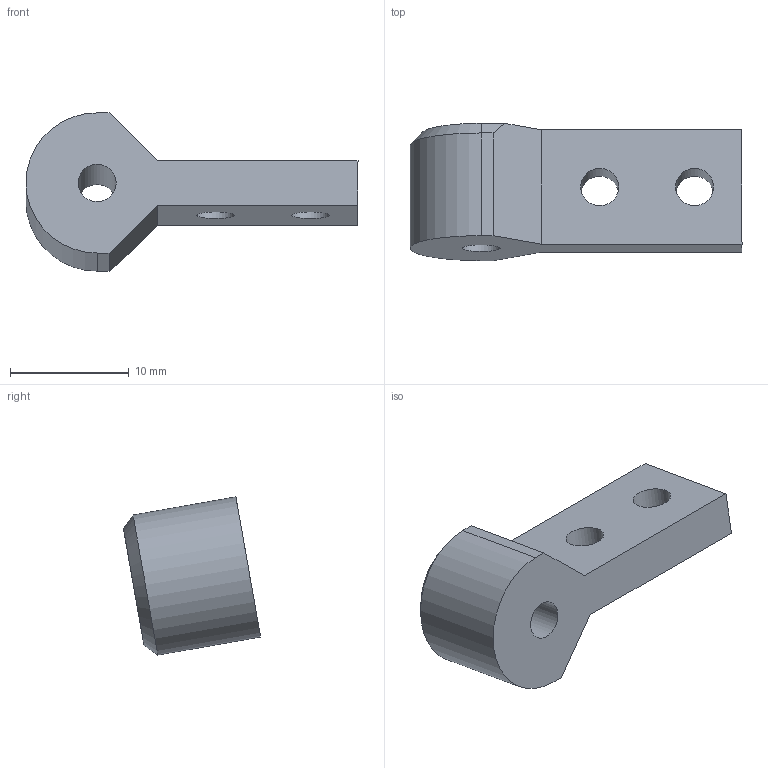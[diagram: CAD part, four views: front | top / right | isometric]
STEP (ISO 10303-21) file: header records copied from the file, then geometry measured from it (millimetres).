
FILE_DESCRIPTION(/* description */ (''),/* implementation_level */ '2;1');
FILE_NAME(/* name */ '4-11-4 Wishbone insert right TPU.step',/* time_stamp */ '2025-05-10T22:17:27+02:00',/* author */ (''),/* organization */ (''),/* preprocessor_version */ 'ST-DEVELOPER v20.1',/* originating_system */ 'Autodesk Translation Framework v14.4.0.0',/* authorisation */ '');
FILE_SCHEMA (('AUTOMOTIVE_DESIGN { 1 0 10303 214 3 1 1 }'));
Length unit declared in the file: millimetre
Products named in the file (1): Wishbone insert right TPU
Bounding box: 28 x 11.56 x 13.35 mm (x, y, z)
Volume: 1468.4 mm3; surface area: 1129.6 mm2
Topology: 1 solids, 1 shells, 16 faces, 40 edges, 26 vertices
Faces by surface type: plane 11, cylinder 4, cone 1
Full cylindrical faces by diameter (mm): 3.2 x3
Entity records: 529 total; most frequent: DIRECTION 83, CARTESIAN_POINT 83, ORIENTED_EDGE 80, EDGE_CURVE 40, LINE 31, VECTOR 31, VERTEX_POINT 26, AXIS2_PLACEMENT_3D 26
